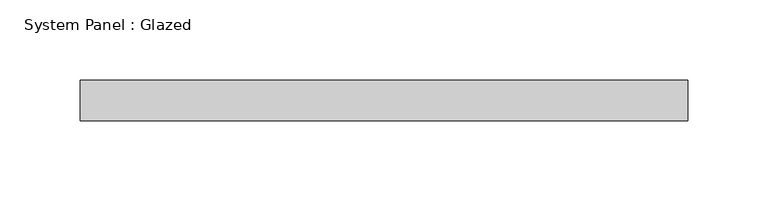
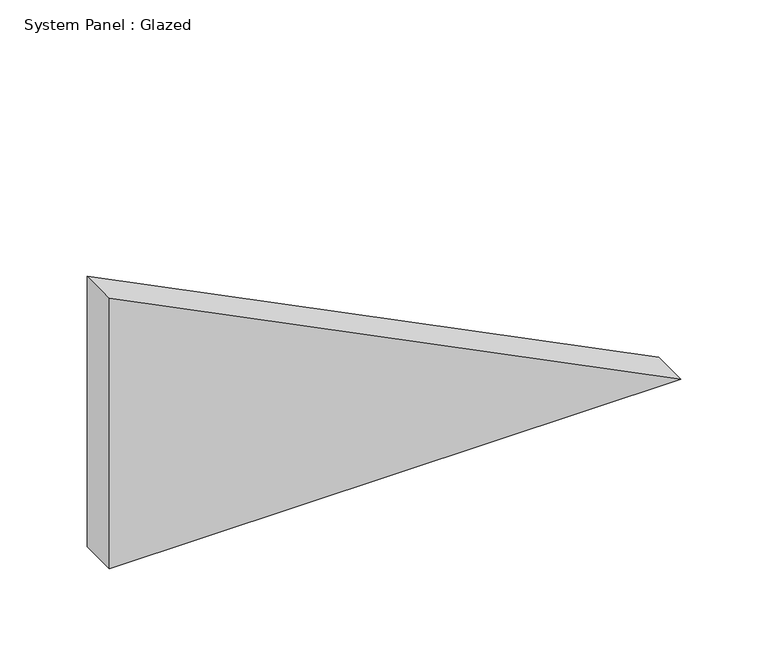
"""IFC4 building model written with IfcOpenShell, lengths in millimetres: plate geometry, System Panel : Glazed."""

from ifc_helpers import new_model, si_unit, frame, origin, place, context, project, spatial, polyline, outline, extrude, source, transform, mapped, element, save


def system_panel_glazed_8c70cf02(model_context):
    return source(origin(), model_context, "Body", "SweptSolid", [
        extrude(outline(polyline([(0.0, -189.7460429), (0.0, 189.7460429), (189.7460429, -189.7460429), (0.0, -189.7460429)])), frame((0.0, 19.05, 0.0), z_axis=(0.0, 1.0, 0.0), x_axis=(0.0, 0.0, 1.0)), (0.0, 0.0, 1.0), 25.4),
    ])


if __name__ == "__main__":
    model = new_model("IFC4")
    model_context = context("Model", 3, world=origin())
    ifc_project = project(units=[si_unit("LENGTHUNIT", "METRE", prefix="MILLI")], contexts=[model_context])
    site = spatial("IfcSite", under=ifc_project)
    building = spatial("IfcBuilding", under=site)
    placement = place(None, origin())
    system_panel_glazed_shape = system_panel_glazed_8c70cf02(model_context)
    element("IfcPlate", 1, ObjectType="System Panel : Glazed", at=placement, inside=building, context=model_context, shape_type="MappedRepresentation", body=[
        mapped(system_panel_glazed_shape, transform((0.0, 0.0, 0.0), x_axis=(1.0, 0.0, 0.0), y_axis=(0.0, 1.0, 0.0), z_axis=(0.0, 0.0, 1.0))),
    ])
    save(model, "model.ifc")
